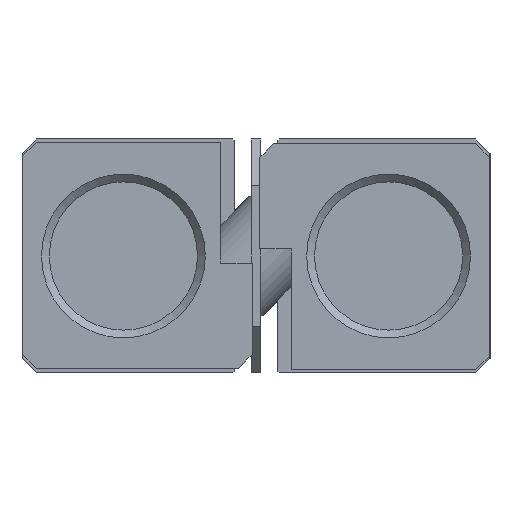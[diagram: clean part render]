
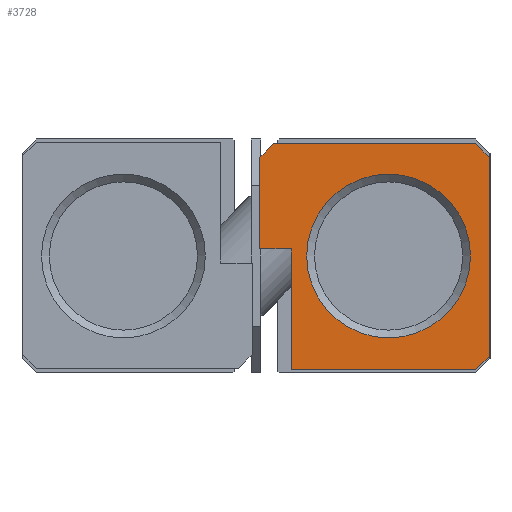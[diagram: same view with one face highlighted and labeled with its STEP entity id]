
A CAD part, left-side view. The second image highlights one B-rep face of the part: STEP entity #3728.
In plain terms, the highlighted planar face has unit normal (-1, 0, 0).
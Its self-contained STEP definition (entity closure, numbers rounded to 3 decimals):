
#151=CIRCLE('',#3975,5.25);
#357=ORIENTED_EDGE('',*,*,#1325,.F.);
#358=ORIENTED_EDGE('',*,*,#1307,.F.);
#359=ORIENTED_EDGE('',*,*,#1324,.F.);
#360=ORIENTED_EDGE('',*,*,#1322,.F.);
#361=ORIENTED_EDGE('',*,*,#1320,.F.);
#362=ORIENTED_EDGE('',*,*,#1318,.F.);
#363=ORIENTED_EDGE('',*,*,#1316,.F.);
#364=ORIENTED_EDGE('',*,*,#1314,.F.);
#365=ORIENTED_EDGE('',*,*,#1312,.F.);
#366=ORIENTED_EDGE('',*,*,#1310,.F.);
#1307=EDGE_CURVE('',#1804,#1805,#2176,.T.);
#1310=EDGE_CURVE('',#1805,#1806,#2179,.T.);
#1312=EDGE_CURVE('',#1806,#1807,#2181,.T.);
#1314=EDGE_CURVE('',#1807,#1808,#2183,.T.);
#1316=EDGE_CURVE('',#1808,#1809,#2185,.T.);
#1318=EDGE_CURVE('',#1809,#1810,#2187,.T.);
#1320=EDGE_CURVE('',#1810,#1811,#2189,.T.);
#1322=EDGE_CURVE('',#1811,#1812,#2191,.T.);
#1324=EDGE_CURVE('',#1812,#1804,#2193,.T.);
#1325=EDGE_CURVE('',#1813,#1813,#151,.T.);
#1804=VERTEX_POINT('',#5492);
#1805=VERTEX_POINT('',#5493);
#1806=VERTEX_POINT('',#5498);
#1807=VERTEX_POINT('',#5502);
#1808=VERTEX_POINT('',#5506);
#1809=VERTEX_POINT('',#5510);
#1810=VERTEX_POINT('',#5514);
#1811=VERTEX_POINT('',#5518);
#1812=VERTEX_POINT('',#5522);
#1813=VERTEX_POINT('',#5528);
#2176=LINE('',#5491,#2555);
#2179=LINE('',#5497,#2558);
#2181=LINE('',#5501,#2560);
#2183=LINE('',#5505,#2562);
#2185=LINE('',#5509,#2564);
#2187=LINE('',#5513,#2566);
#2189=LINE('',#5517,#2568);
#2191=LINE('',#5521,#2570);
#2193=LINE('',#5525,#2572);
#2555=VECTOR('',#4392,1000.);
#2558=VECTOR('',#4397,1000.);
#2560=VECTOR('',#4401,1000.);
#2562=VECTOR('',#4405,1000.);
#2564=VECTOR('',#4409,1000.);
#2566=VECTOR('',#4413,1000.);
#2568=VECTOR('',#4417,1000.);
#2570=VECTOR('',#4421,1000.);
#2572=VECTOR('',#4425,1000.);
#2911=EDGE_LOOP('',(#357));
#2912=EDGE_LOOP('',(#358,#359,#360,#361,#362,#363,#364,#365,#366));
#3246=FACE_BOUND('',#2911,.T.);
#3247=FACE_BOUND('',#2912,.T.);
#3573=PLANE('',#3974);
#3728=ADVANCED_FACE('',(#3246,#3247),#3573,.F.);
#3974=AXIS2_PLACEMENT_3D('',#5526,#4426,#4427);
#3975=AXIS2_PLACEMENT_3D('',#5527,#4428,#4429);
#4392=DIRECTION('',(0.,-1.,0.));
#4397=DIRECTION('',(0.,-0.707,-0.707));
#4401=DIRECTION('',(0.,0.,-1.));
#4405=DIRECTION('',(0.,0.707,-0.707));
#4409=DIRECTION('',(0.,1.,0.));
#4413=DIRECTION('',(0.,0.,1.));
#4417=DIRECTION('',(0.,1.,0.));
#4421=DIRECTION('',(0.,0.,1.));
#4425=DIRECTION('',(0.,-0.707,0.707));
#4426=DIRECTION('',(1.,0.,0.));
#4427=DIRECTION('',(0.,1.,0.));
#4428=DIRECTION('',(-1.,0.,0.));
#4429=DIRECTION('',(0.,0.,1.));
#5491=CARTESIAN_POINT('',(0.,-1.12,7.2));
#5492=CARTESIAN_POINT('',(0.,-1.12,7.2));
#5493=CARTESIAN_POINT('',(0.,-14.08,7.2));
#5497=CARTESIAN_POINT('',(0.,-14.08,7.2));
#5498=CARTESIAN_POINT('',(0.,-14.95,6.33));
#5501=CARTESIAN_POINT('',(0.,-14.95,6.33));
#5502=CARTESIAN_POINT('',(0.,-14.95,-6.43));
#5505=CARTESIAN_POINT('',(0.,-14.95,-6.43));
#5506=CARTESIAN_POINT('',(0.,-14.08,-7.3));
#5509=CARTESIAN_POINT('',(0.,-14.08,-7.3));
#5510=CARTESIAN_POINT('',(0.,-2.25,-7.3));
#5513=CARTESIAN_POINT('',(0.,-2.25,-7.3));
#5514=CARTESIAN_POINT('',(0.,-2.25,0.45));
#5517=CARTESIAN_POINT('',(0.,-2.25,0.45));
#5518=CARTESIAN_POINT('',(0.,-0.25,0.45));
#5521=CARTESIAN_POINT('',(0.,-0.25,0.45));
#5522=CARTESIAN_POINT('',(0.,-0.25,6.33));
#5525=CARTESIAN_POINT('',(0.,-0.25,6.33));
#5526=CARTESIAN_POINT('',(0.,0.,0.));
#5527=CARTESIAN_POINT('',(0.,-8.5,0.));
#5528=CARTESIAN_POINT('',(0.,-8.5,5.25));
